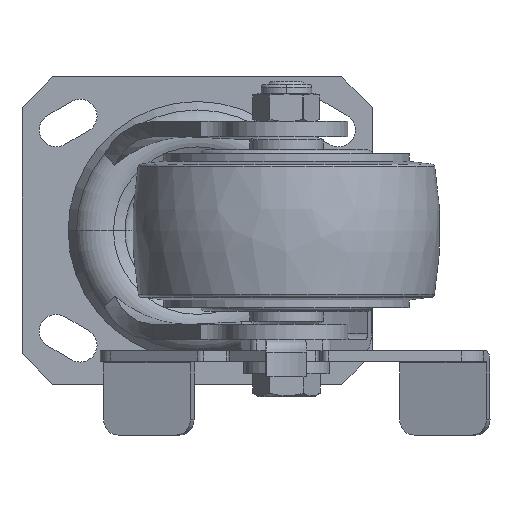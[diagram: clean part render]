
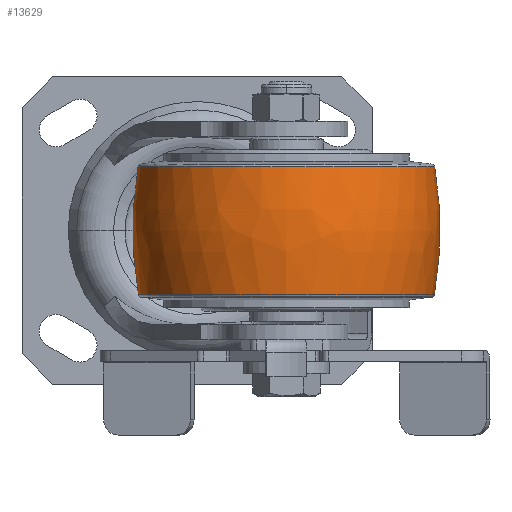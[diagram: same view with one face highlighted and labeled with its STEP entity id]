
A CAD part, front view. The second image highlights one B-rep face of the part: STEP entity #13629.
In plain terms, the highlighted free-form (B-spline) face has degree [3, 3] with [7, 4] control points.
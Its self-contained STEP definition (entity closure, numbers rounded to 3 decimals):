
#12991=CARTESIAN_POINT('',(0.311,-70.,0.));
#12992=DIRECTION('',(0.,0.,1.));
#12993=DIRECTION('',(0.171,0.985,0.));
#12994=AXIS2_PLACEMENT_3D('',#12991,#12992,#12993);
#12996=CARTESIAN_POINT('',(0.311,70.,0.));
#12997=DIRECTION('',(0.,0.,-1.));
#12998=DIRECTION('',(0.171,-0.985,0.));
#12999=AXIS2_PLACEMENT_3D('',#12996,#12997,#12998);
#13001=CARTESIAN_POINT('',(20.795,0.,0.));
#13002=DIRECTION('',(-1.,0.,0.));
#13003=DIRECTION('',(0.,1.,0.));
#13004=AXIS2_PLACEMENT_3D('',#13001,#13002,#13003);
#13016=CARTESIAN_POINT('',(-20.814,0.,0.));
#13017=DIRECTION('',(-1.,0.,0.));
#13018=DIRECTION('',(0.,1.,0.));
#13019=AXIS2_PLACEMENT_3D('',#13016,#13017,#13018);
#13440=CARTESIAN_POINT('',(20.795,48.239,0.));
#13441=CARTESIAN_POINT('',(-20.814,48.126,0.));
#13442=VERTEX_POINT('',#13440);
#13443=VERTEX_POINT('',#13441);
#13496=CARTESIAN_POINT('',(20.795,-48.239,
0.));
#13497=CARTESIAN_POINT('',(-20.814,-48.126,
0.));
#13498=VERTEX_POINT('',#13496);
#13499=VERTEX_POINT('',#13497);
#13592=CARTESIAN_POINT('',(-21.637,-47.881,
3.012));
#13593=CARTESIAN_POINT('',(-7.305,-50.543,
3.18));
#13594=CARTESIAN_POINT('',(7.273,-50.582,
3.182));
#13595=CARTESIAN_POINT('',(21.619,-47.999,
3.02));
#13596=CARTESIAN_POINT('',(-21.637,-49.735,
-26.454));
#13597=CARTESIAN_POINT('',(-7.305,-52.499,
-27.924));
#13598=CARTESIAN_POINT('',(7.273,-52.54,
-27.946));
#13599=CARTESIAN_POINT('',(21.619,-49.857,
-26.518));
#13600=CARTESIAN_POINT('',(-21.637,-29.524,
-47.976));
#13601=CARTESIAN_POINT('',(-7.305,-31.165,
-50.642));
#13602=CARTESIAN_POINT('',(7.273,-31.19,
-50.682));
#13603=CARTESIAN_POINT('',(21.619,-29.597,
-48.094));
#13604=CARTESIAN_POINT('',(-21.637,0.,-47.976));
#13605=CARTESIAN_POINT('',(-7.305,0.,
-50.642));
#13606=CARTESIAN_POINT('',(7.273,0.,
-50.682));
#13607=CARTESIAN_POINT('',(21.619,0.,
-48.094));
#13608=CARTESIAN_POINT('',(-21.637,29.524,
-47.976));
#13609=CARTESIAN_POINT('',(-7.305,31.165,
-50.642));
#13610=CARTESIAN_POINT('',(7.273,31.19,
-50.682));
#13611=CARTESIAN_POINT('',(21.619,29.597,
-48.094));
#13612=CARTESIAN_POINT('',(-21.637,49.735,
-26.454));
#13613=CARTESIAN_POINT('',(-7.305,52.499,
-27.924));
#13614=CARTESIAN_POINT('',(7.273,52.54,
-27.946));
#13615=CARTESIAN_POINT('',(21.619,49.857,
-26.518));
#13616=CARTESIAN_POINT('',(-21.637,47.881,
3.012));
#13617=CARTESIAN_POINT('',(-7.305,50.543,
3.18));
#13618=CARTESIAN_POINT('',(7.273,50.582,3.182));
#13619=CARTESIAN_POINT('',(21.619,47.999,3.02));
#13620=(BOUNDED_SURFACE()B_SPLINE_SURFACE(3,3,((#13592,#13593,#13594,#13595),(
#13596,#13597,#13598,#13599),(#13600,#13601,#13602,#13603),(#13604,#13605,
#13606,#13607),(#13608,#13609,#13610,#13611),(#13612,#13613,#13614,#13615),(
#13616,#13617,#13618,#13619)),.UNSPECIFIED.,.F.,.F.,.F.)B_SPLINE_SURFACE_WITH_KNOTS((4,3,4),(4,4),(0.,1.,2.),(0.,1.),.UNSPECIFIED.)GEOMETRIC_REPRESENTATION_ITEM()RATIONAL_B_SPLINE_SURFACE(((1.197,1.184,
1.184,1.197),(0.945,0.935,
0.935,0.945),(0.945,0.935,
0.935,0.945),(1.197,1.184,
1.184,1.197),(0.945,0.935,
0.935,0.945),(0.945,0.935,
0.935,0.945),(1.197,1.184,
1.184,1.197)))REPRESENTATION_ITEM('')SURFACE());
#13621=ORIENTED_EDGE('',*,*,#13581,.T.);
#13623=ORIENTED_EDGE('',*,*,#13622,.T.);
#13624=ORIENTED_EDGE('',*,*,#13585,.F.);
#13626=ORIENTED_EDGE('',*,*,#13625,.F.);
#13627=EDGE_LOOP('',(#13621,#13623,#13624,#13626));
#13628=FACE_OUTER_BOUND('',#13627,.F.);
#12995=CIRCLE('',#12994,120.);
#13000=CIRCLE('',#12999,120.);
#13005=CIRCLE('',#13004,48.239);
#13020=CIRCLE('',#13019,48.126);
#13581=EDGE_CURVE('',#13442,#13443,#12995,.T.);
#13585=EDGE_CURVE('',#13498,#13499,#13000,.T.);
#13622=EDGE_CURVE('',#13443,#13499,#13020,.T.);
#13625=EDGE_CURVE('',#13442,#13498,#13005,.T.);
#13629=ADVANCED_FACE('',(#13628),#13620,.T.);
